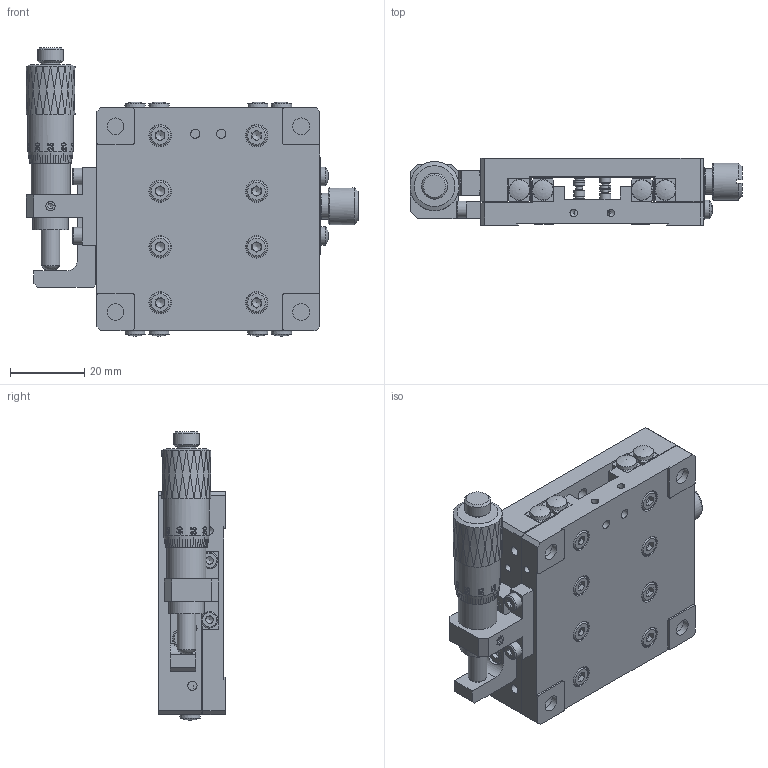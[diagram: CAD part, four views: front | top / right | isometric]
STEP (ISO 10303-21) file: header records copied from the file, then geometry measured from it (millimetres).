
FILE_DESCRIPTION (( 'STEP AP203' ), '1' );
FILE_NAME ('BPTA60.STEP', '2024-07-24T12:44:00', ( 'Windows User' ), ( 'P R C' ), 'SwSTEP 2.0', 'SolidWorks 2024', '' );
FILE_SCHEMA (( 'CONFIG_CONTROL_DESIGN' ));
Products named in the file (1): BPTA60
Bounding box: 89.4 x 18 x 77.6 mm (x, y, z)
Volume: 59840.3 mm3; surface area: 42913.8 mm2
Topology: 41 solids, 41 shells, 1945 faces, 4807 edges, 3087 vertices
Faces by surface type: plane 889, bspline 411, cylinder 364, cone 250, torus 28, sphere 3
Full cylindrical faces by diameter (mm): 1.8 x4, 2 x22, 2.05 x17, 2.4 x4, 2.5 x19, 2.55 x16, 2.95 x9, 3 x29, 3.1 x2, 3.2 x2, 3.3 x9, 3.4 x16, 4.4 x16, 4.5 x6, 5 x5, 5.5 x18, 5.8 x2, 6 x16, 7 x2, 8 x4, 8.5 x1, 9.5 x2, 10 x1, 10.5 x1, 12.2 x1
Entity records: 88912 total; most frequent: CARTESIAN_POINT 48937, ORIENTED_EDGE 8498, DIRECTION 6643, EDGE_CURVE 4249, VERTEX_POINT 2944, EDGE_LOOP 2713, AXIS2_PLACEMENT_3D 2482, FACE_OUTER_BOUND 2182
